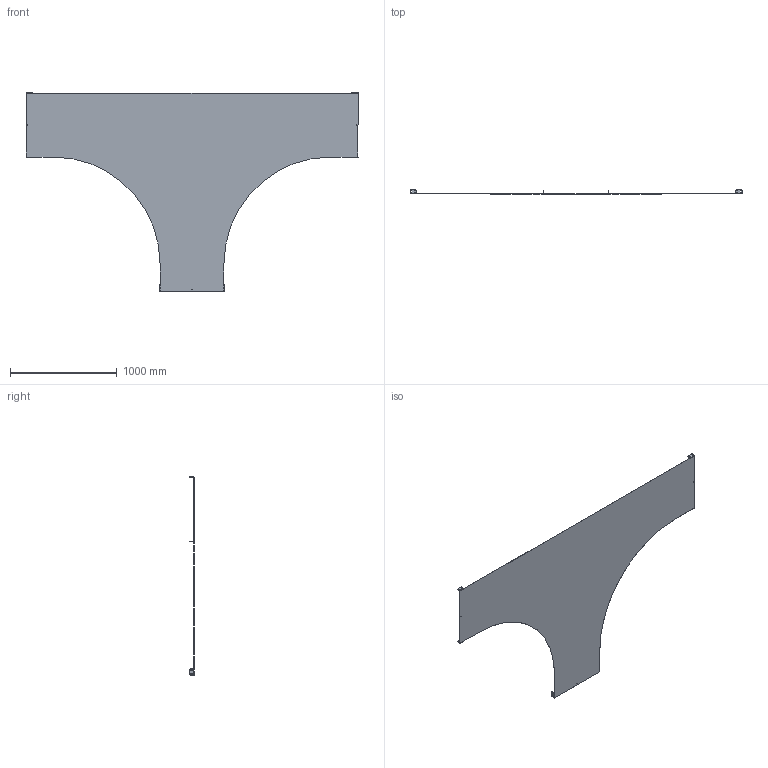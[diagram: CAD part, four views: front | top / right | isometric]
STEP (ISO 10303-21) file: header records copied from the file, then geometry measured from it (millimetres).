
FILE_DESCRIPTION (( 'STEP AP203' ), '1' );
FILE_NAME ('UKT106.STEP', '2015-03-30T13:28:03', ( '' ), ( '' ), 'SwSTEP 2.0', 'SolidWorks 2014', '' );
FILE_SCHEMA (( 'CONFIG_CONTROL_DESIGN' ));
Length unit declared in the file: millimetre
Products named in the file (1): UKT106
Bounding box: 3114.4 x 38.2 x 1859 mm (x, y, z)
Volume: 3675938 mm3; surface area: 6139424.5 mm2
Topology: 1 solids, 1 shells, 238 faces, 696 edges, 424 vertices
Faces by surface type: plane 190, cylinder 48
Entity records: 7961 total; most frequent: ORIENTED_EDGE 1392, DIRECTION 1366, CARTESIAN_POINT 1359, EDGE_CURVE 696, LINE 504, VECTOR 504, AXIS2_PLACEMENT_3D 431, VERTEX_POINT 424
